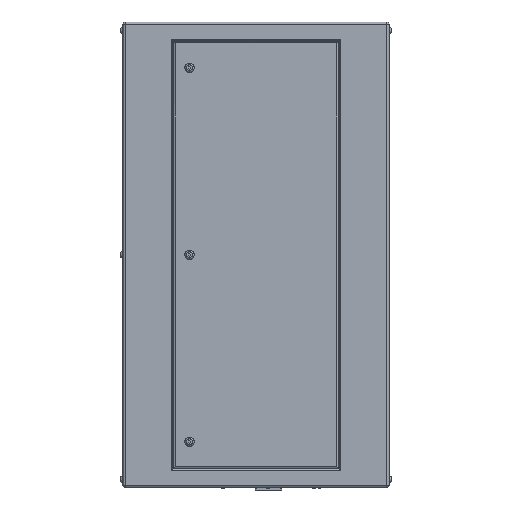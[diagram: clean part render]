
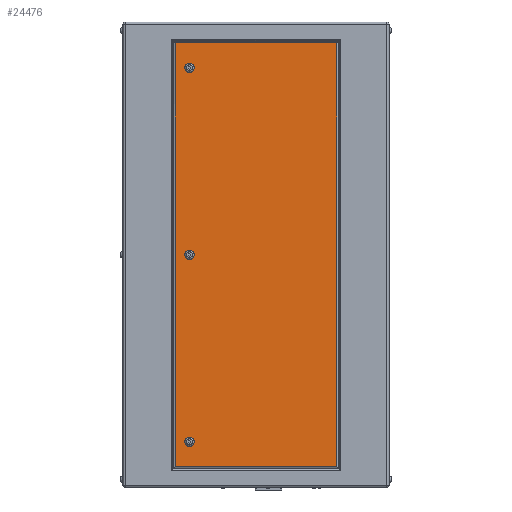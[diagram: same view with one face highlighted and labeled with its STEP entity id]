
A CAD part, left-side view. The second image highlights one B-rep face of the part: STEP entity #24476.
In plain terms, the highlighted planar face has unit normal (-1, 0, 0).
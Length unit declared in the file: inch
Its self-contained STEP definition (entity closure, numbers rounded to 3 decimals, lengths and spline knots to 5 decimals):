
#312 = EDGE_LOOP ( 'NONE', ( #24563, #11855 ) ) ;
#1117 = ORIENTED_EDGE ( 'NONE', *, *, #2510, .T. ) ;
#1261 = CARTESIAN_POINT ( 'NONE',  ( -17., -9.74, -28. ) ) ;
#1356 = CIRCLE ( 'NONE', #6205, 0.55 ) ;
#1577 = CARTESIAN_POINT ( 'NONE',  ( -17., 8., 22.5 ) ) ;
#1712 = DIRECTION ( 'NONE',  ( 1., 0., 0. ) ) ;
#2269 = CARTESIAN_POINT ( 'NONE',  ( -17., 9.74, 25.49 ) ) ;
#2307 = DIRECTION ( 'NONE',  ( 0., 0., -1. ) ) ;
#2510 = EDGE_CURVE ( 'NONE', #32655, #6517, #22578, .T. ) ;
#2580 = CARTESIAN_POINT ( 'NONE',  ( -17., 16., -25.49 ) ) ;
#2951 = CARTESIAN_POINT ( 'NONE',  ( -17., 8., 22.5 ) ) ;
#3312 = EDGE_CURVE ( 'NONE', #26791, #33693, #35939, .T. ) ;
#3373 = DIRECTION ( 'NONE',  ( 1., 0., 0. ) ) ;
#3390 = EDGE_CURVE ( 'NONE', #33212, #15087, #8711, .T. ) ;
#3766 = EDGE_LOOP ( 'NONE', ( #26297, #21937, #1117, #36095 ) ) ;
#4099 = VERTEX_POINT ( 'NONE', #17910 ) ;
#4856 = CARTESIAN_POINT ( 'NONE',  ( -17., 8., 0. ) ) ;
#5147 = CARTESIAN_POINT ( 'NONE',  ( -17., 8., -22.5 ) ) ;
#5427 = CARTESIAN_POINT ( 'NONE',  ( -17., 8., 23.05 ) ) ;
#5579 = VECTOR ( 'NONE', #33936, 39.37008 ) ;
#5626 = CIRCLE ( 'NONE', #26849, 0.55 ) ;
#6205 = AXIS2_PLACEMENT_3D ( 'NONE', #5147, #28340, #2307 ) ;
#6517 = VERTEX_POINT ( 'NONE', #2269 ) ;
#6525 = DIRECTION ( 'NONE',  ( 0., 0., -1. ) ) ;
#7402 = DIRECTION ( 'NONE',  ( 0., 0., -1. ) ) ;
#8320 = EDGE_CURVE ( 'NONE', #33693, #26791, #1356, .T. ) ;
#8711 = CIRCLE ( 'NONE', #14225, 0.55 ) ;
#9877 = CARTESIAN_POINT ( 'NONE',  ( -17., 8., -22.5 ) ) ;
#9919 = VERTEX_POINT ( 'NONE', #15669 ) ;
#10136 = CIRCLE ( 'NONE', #34996, 0.55 ) ;
#10937 = DIRECTION ( 'NONE',  ( 0., -1., 0. ) ) ;
#10943 = DIRECTION ( 'NONE',  ( 1., 0., 0. ) ) ;
#11165 = CARTESIAN_POINT ( 'NONE',  ( -17., 16., 25.49 ) ) ;
#11226 = DIRECTION ( 'NONE',  ( 0., 0., -1. ) ) ;
#11855 = ORIENTED_EDGE ( 'NONE', *, *, #16987, .T. ) ;
#12019 = CARTESIAN_POINT ( 'NONE',  ( -17., 8., -21.95 ) ) ;
#13184 = DIRECTION ( 'NONE',  ( 1., 0., 0. ) ) ;
#14225 = AXIS2_PLACEMENT_3D ( 'NONE', #31711, #3373, #20852 ) ;
#14940 = FACE_BOUND ( 'NONE', #312, .T. ) ;
#15087 = VERTEX_POINT ( 'NONE', #32401 ) ;
#15669 = CARTESIAN_POINT ( 'NONE',  ( -17., -9.74, -25.49 ) ) ;
#16113 = VERTEX_POINT ( 'NONE', #5427 ) ;
#16567 = CARTESIAN_POINT ( 'NONE',  ( -17., 9.74, -28. ) ) ;
#16763 = LINE ( 'NONE', #16567, #18422 ) ;
#16959 = CARTESIAN_POINT ( 'NONE',  ( -17., 8., -23.05 ) ) ;
#16987 = EDGE_CURVE ( 'NONE', #15087, #33212, #10136, .T. ) ;
#17212 = DIRECTION ( 'NONE',  ( 0., 0., -1. ) ) ;
#17423 = DIRECTION ( 'NONE',  ( 0., 0., -1. ) ) ;
#17581 = AXIS2_PLACEMENT_3D ( 'NONE', #20798, #34663, #17423 ) ;
#17858 = EDGE_CURVE ( 'NONE', #9919, #32655, #27858, .T. ) ;
#17910 = CARTESIAN_POINT ( 'NONE',  ( -17., 8., 21.95 ) ) ;
#18422 = VECTOR ( 'NONE', #11226, 39.37008 ) ;
#19065 = AXIS2_PLACEMENT_3D ( 'NONE', #1577, #13184, #6525 ) ;
#20075 = DIRECTION ( 'NONE',  ( 1., 0., 0. ) ) ;
#20089 = FACE_OUTER_BOUND ( 'NONE', #3766, .T. ) ;
#20746 = EDGE_LOOP ( 'NONE', ( #31155, #35075 ) ) ;
#20798 = CARTESIAN_POINT ( 'NONE',  ( -17., 16., -28. ) ) ;
#20852 = DIRECTION ( 'NONE',  ( 0., 0., -1. ) ) ;
#21937 = ORIENTED_EDGE ( 'NONE', *, *, #17858, .T. ) ;
#22578 = LINE ( 'NONE', #11165, #5579 ) ;
#22756 = EDGE_CURVE ( 'NONE', #4099, #16113, #29973, .T. ) ;
#22903 = LINE ( 'NONE', #2580, #24920 ) ;
#24476 = ADVANCED_FACE ( 'NONE', ( #31838, #14940, #26159, #20089 ), #28812, .F. ) ;
#24563 = ORIENTED_EDGE ( 'NONE', *, *, #3390, .T. ) ;
#24920 = VECTOR ( 'NONE', #10937, 39.37008 ) ;
#25051 = ORIENTED_EDGE ( 'NONE', *, *, #22756, .T. ) ;
#25717 = AXIS2_PLACEMENT_3D ( 'NONE', #9877, #1712, #7402 ) ;
#25788 = DIRECTION ( 'NONE',  ( 0., 0., -1. ) ) ;
#26159 = FACE_BOUND ( 'NONE', #28947, .T. ) ;
#26297 = ORIENTED_EDGE ( 'NONE', *, *, #36789, .T. ) ;
#26787 = EDGE_CURVE ( 'NONE', #6517, #33444, #16763, .T. ) ;
#26791 = VERTEX_POINT ( 'NONE', #16959 ) ;
#26849 = AXIS2_PLACEMENT_3D ( 'NONE', #2951, #20075, #25788 ) ;
#27307 = CARTESIAN_POINT ( 'NONE',  ( -17., -9.74, 25.49 ) ) ;
#27621 = EDGE_CURVE ( 'NONE', #16113, #4099, #5626, .T. ) ;
#27663 = DIRECTION ( 'NONE',  ( 0., 0., 1. ) ) ;
#27858 = LINE ( 'NONE', #1261, #34477 ) ;
#28340 = DIRECTION ( 'NONE',  ( 1., 0., 0. ) ) ;
#28812 = PLANE ( 'NONE',  #17581 ) ;
#28947 = EDGE_LOOP ( 'NONE', ( #25051, #33718 ) ) ;
#29973 = CIRCLE ( 'NONE', #19065, 0.55 ) ;
#31155 = ORIENTED_EDGE ( 'NONE', *, *, #3312, .T. ) ;
#31711 = CARTESIAN_POINT ( 'NONE',  ( -17., 8., 0. ) ) ;
#31838 = FACE_BOUND ( 'NONE', #20746, .T. ) ;
#32401 = CARTESIAN_POINT ( 'NONE',  ( -17., 8., 0.55 ) ) ;
#32655 = VERTEX_POINT ( 'NONE', #27307 ) ;
#32872 = CARTESIAN_POINT ( 'NONE',  ( -17., 8., -0.55 ) ) ;
#33212 = VERTEX_POINT ( 'NONE', #32872 ) ;
#33444 = VERTEX_POINT ( 'NONE', #33700 ) ;
#33693 = VERTEX_POINT ( 'NONE', #12019 ) ;
#33700 = CARTESIAN_POINT ( 'NONE',  ( -17., 9.74, -25.49 ) ) ;
#33718 = ORIENTED_EDGE ( 'NONE', *, *, #27621, .T. ) ;
#33936 = DIRECTION ( 'NONE',  ( 0., 1., 0. ) ) ;
#34477 = VECTOR ( 'NONE', #27663, 39.37008 ) ;
#34663 = DIRECTION ( 'NONE',  ( 1., 0., 0. ) ) ;
#34996 = AXIS2_PLACEMENT_3D ( 'NONE', #4856, #10943, #17212 ) ;
#35075 = ORIENTED_EDGE ( 'NONE', *, *, #8320, .T. ) ;
#35939 = CIRCLE ( 'NONE', #25717, 0.55 ) ;
#36095 = ORIENTED_EDGE ( 'NONE', *, *, #26787, .T. ) ;
#36789 = EDGE_CURVE ( 'NONE', #33444, #9919, #22903, .T. ) ;
